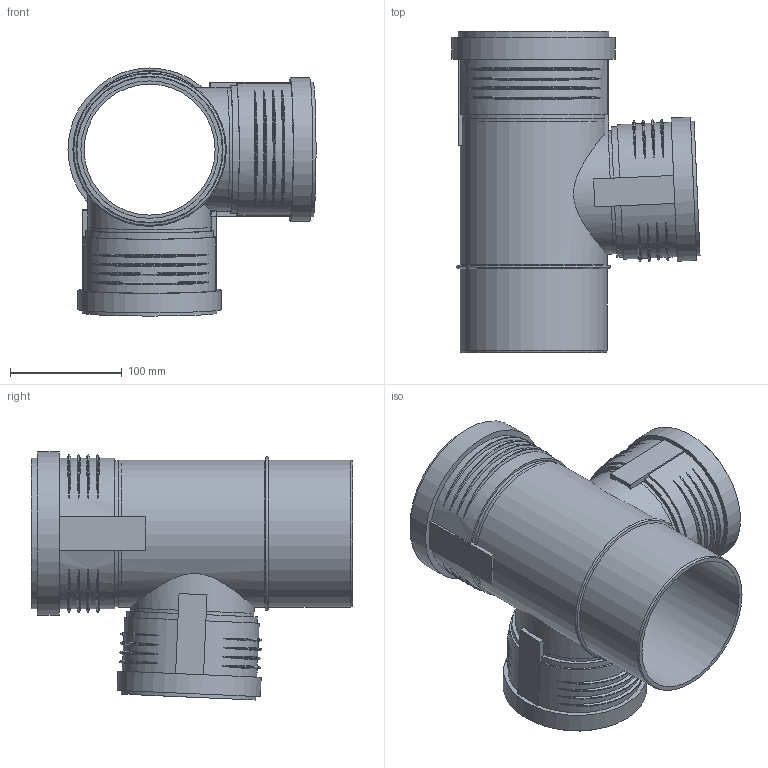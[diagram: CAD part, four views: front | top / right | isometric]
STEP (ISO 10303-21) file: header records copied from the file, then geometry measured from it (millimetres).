
FILE_DESCRIPTION(/* description */ (''),/* implementation_level */ '2;1');
FILE_NAME(/* name */ 'Z:\Geberit\Export\NewStep\390662.stp',/* time_stamp */ '2014-04-02T08:16:10+02:00',/* author */ ('ML'),/* organization */ (''),/* preprocessor_version */ 'ST-DEVELOPER v15.2',/* originating_system */ 'Autodesk Inventor 2014',/* authorisation */ '');
FILE_SCHEMA (('AUTOMOTIVE_DESIGN { 1 0 10303 214 3 1 1 }'));
Length unit declared in the file: millimetre
Products named in the file (5): 861650; 861625; 861404; 861404_1; 390662
Bounding box: 221.6 x 286.9 x 221.6 mm (x, y, z)
Volume: 754160.1 mm3; surface area: 401375.3 mm2
Topology: 4 solids, 4 shells, 180 faces, 447 edges, 312 vertices
Faces by surface type: torus 74, plane 54, cylinder 47, cone 5
Full cylindrical faces by diameter (mm): 103.02 x2, 103.2 x2, 110.2 x4, 113.3 x4, 117 x1, 120.3 x2, 121.1 x2, 122.82 x1, 125.2 x1, 126.4 x2, 128.1 x2, 131.2 x2, 134.6 x1, 137.7 x1, 145.9 x1
Entity records: 7630 total; most frequent: CARTESIAN_POINT 3382, ORIENTED_EDGE 796, DIRECTION 767, EDGE_CURVE 398, AXIS2_PLACEMENT_3D 330, VERTEX_POINT 300, EDGE_LOOP 266, STYLED_ITEM 180
